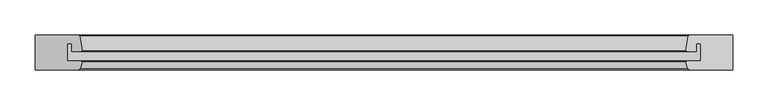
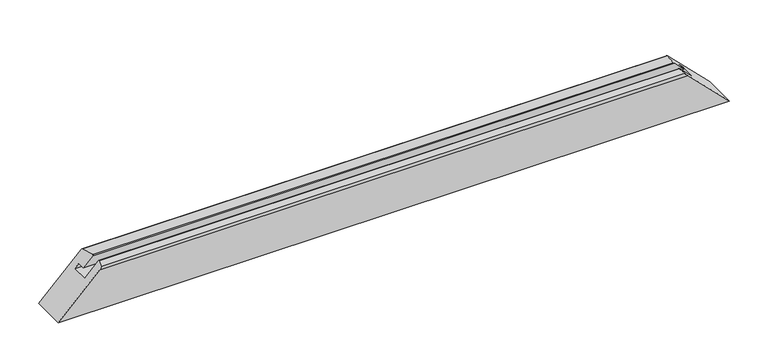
"""IFC4 building model written with IfcOpenShell, lengths in millimetres: proxy geometry, Weiku - Montante - Caixilho fixo 02.2.01.005 : Weiku - Montante - Caixilho fixo 02.2.01.005."""

from ifc_helpers import new_model, si_unit, frame, origin, place, context, project, spatial, ellipse_curve, source, transform, mapped, element, save
from ifc_brep_helpers import plane_surface, cylinder_surface, advanced_brep


def generic_models_d78eb1f8(model_context):
    return source(origin(), model_context, "Body", "AdvancedBrep", [
        advanced_brep(
        [(-430.118227, -38.5070552, 66.881773), (-430.8909676, -37.5, 66.1090324), (-451.0, -37.5, 46.0), (-451.0, -12.5, 46.0), (-445.0009154, -12.5, 51.9990846), (-445.0009154, -23.5, 51.9990846), (-430.9865015, -23.5, 66.0134985), (-429.9998537, -22.3371317, 67.0001463), (-433.5489094, -0.8371317, 63.4510906), (-434.5355572, 0.0, 62.4644428), (-497.0, 0.0, 0.0), (-497.0, -50.0, 0.0), (-435.4997332, -50.0, 61.5002668), (-432.6019557, -47.7764571, 64.3980443), (432.6019557, -47.7764571, 64.3980443), (435.4997332, -50.0, 61.5002668), (497.0, -50.0, 0.0), (497.0, 0.0, 0.0), (434.5355572, 0.0, 62.4644428), (433.5489094, -0.8371317, 63.4510906), (429.9998537, -22.3371317, 67.0001463), (430.9865015, -23.5, 66.0134985), (445.0009154, -23.5, 51.9990846), (445.0009154, -12.5, 51.9990846), (451.0, -12.5, 46.0), (451.0, -37.5, 46.0), (430.8909676, -37.5, 66.1090324), (430.118227, -38.5070552, 66.881773)],
        [
            (0, 1, ellipse_curve(frame((-430.8909676, -38.3, 66.1090324), z_axis=(-0.707106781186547, 0.0, 0.7071067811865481), x_axis=(-0.7071067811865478, 0.0, -0.707106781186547)), 1.1313708, 0.8)),
            (1, 2),
            (2, 3),
            (3, 4),
            (4, 5),
            (5, 6),
            (6, 7, ellipse_curve(frame((-430.9865015, -22.5, 66.0134985), z_axis=(-0.707106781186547, 0.0, 0.7071067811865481), x_axis=(-0.7071067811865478, 0.0, -0.707106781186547)), 1.4142136, 1.0)),
            (7, 8),
            (8, 9, ellipse_curve(frame((-434.5355572, -1.0, 62.4644428), z_axis=(-0.707106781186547, 0.0, 0.7071067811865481), x_axis=(-0.7071067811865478, 0.0, -0.707106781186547)), 1.4142136, 1.0)),
            (9, 10),
            (10, 11),
            (11, 12),
            (12, 13, ellipse_curve(frame((-435.4997332, -47.0, 61.5002668), z_axis=(-0.707106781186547, 0.0, 0.7071067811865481), x_axis=(-0.7071067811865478, 0.0, -0.707106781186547)), 4.2426407, 3.0)),
            (13, 0),
            (14, 15, ellipse_curve(frame((435.4997332, -47.0, 61.5002668), z_axis=(0.7071067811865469, 0.0, 0.7071067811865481), x_axis=(-0.7071067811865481, 0.0, 0.7071067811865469)), 4.2426407, 3.0)),
            (15, 16),
            (16, 17),
            (17, 18),
            (18, 19, ellipse_curve(frame((434.5355572, -1.0, 62.4644428), z_axis=(0.7071067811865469, 0.0, 0.7071067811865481), x_axis=(-0.7071067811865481, 0.0, 0.7071067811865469)), 1.4142136, 1.0)),
            (19, 20),
            (20, 21, ellipse_curve(frame((430.9865015, -22.5, 66.0134985), z_axis=(0.7071067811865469, 0.0, 0.7071067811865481), x_axis=(-0.7071067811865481, 0.0, 0.7071067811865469)), 1.4142136, 1.0)),
            (21, 22),
            (22, 23),
            (23, 24),
            (24, 25),
            (25, 26),
            (26, 27, ellipse_curve(frame((430.8909676, -38.3, 66.1090324), z_axis=(0.7071067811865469, 0.0, 0.7071067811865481), x_axis=(-0.7071067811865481, 0.0, 0.7071067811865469)), 1.1313708, 0.8)),
            (27, 14),
            (13, 14),
            (27, 0),
            (12, 15),
            (11, 16),
            (10, 17),
            (9, 18),
            (8, 19),
            (7, 20),
            (6, 21),
            (5, 22),
            (4, 23),
            (3, 24),
            (2, 25),
            (1, 26),
        ],
        [
            plane_surface(frame((-567.0, 15.0, -70.0), z_axis=(-0.707106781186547, 0.0, 0.7071067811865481), x_axis=(0.0, -1.0, 0.0))),
            plane_surface(frame((427.0, 15.0, 70.0), z_axis=(0.7071067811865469, 0.0, 0.7071067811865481), x_axis=(0.0, -1.0, 0.0))),
            plane_surface(frame((-497.0, -38.5070552, 66.881773), z_axis=(0.0, -0.2588190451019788, 0.9659258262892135), x_axis=(1.0, 0.0, 0.0))),
            cylinder_surface(frame((-497.0, -47.0, 61.5002668), z_axis=(-1.0, 0.0, 0.0), x_axis=(0.0, 1.0, 0.0)), 3.0),
            plane_surface(frame((-497.0, -50.0, 61.5002668), z_axis=(0.0, -1.0, 0.0), x_axis=(1.0, 0.0, 0.0))),
            plane_surface(frame((-497.0, -50.0, 0.0), z_axis=(0.0, 0.0, -1.0), x_axis=(1.0, 0.0, 0.0))),
            plane_surface(frame((-497.0, 0.0, 0.0), z_axis=(0.0, 1.0, 0.0), x_axis=(1.0, 0.0, 0.0))),
            cylinder_surface(frame((-497.0, -1.0, 62.4644428), z_axis=(-1.0, 0.0, 0.0), x_axis=(0.0, -1.0, 0.0)), 1.0),
            plane_surface(frame((-497.0, -0.8371317, 63.4510906), z_axis=(0.0, 0.16286828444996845, 0.9866478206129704), x_axis=(1.0, 0.0, 0.0))),
            cylinder_surface(frame((-497.0, -22.5, 66.0134985), z_axis=(-1.0, 0.0, 0.0), x_axis=(0.0, -1.0, 0.0)), 1.0),
            plane_surface(frame((-497.0, -23.5, 66.0134985), z_axis=(0.0, -1.0, 0.0), x_axis=(1.0, 0.0, 0.0))),
            plane_surface(frame((-497.0, -23.5, 51.9990846), z_axis=(0.0, 0.0, -1.0), x_axis=(1.0, 0.0, 0.0))),
            plane_surface(frame((-497.0, -12.5, 51.9990846), z_axis=(0.0, -1.0, 0.0), x_axis=(1.0, 0.0, 0.0))),
            plane_surface(frame((-497.0, -12.5, 46.0), z_axis=(0.0, 0.0, 1.0), x_axis=(1.0, 0.0, 0.0))),
            plane_surface(frame((-497.0, -37.5, 46.0), z_axis=(0.0, 1.0, 0.0), x_axis=(1.0, 0.0, 0.0))),
            cylinder_surface(frame((-497.0, -38.3, 66.1090324), z_axis=(-1.0, 0.0, 0.0), x_axis=(0.0, 1.0, 0.0)), 0.8),
        ],
        [
            (0, [[1, 2, 3, 4, 5, 6, 7, 8, 9, 10, 11, 12, 13, 14]]),
            (1, [[15, 16, 17, 18, 19, 20, 21, 22, 23, 24, 25, 26, 27, 28]]),
            (2, [[29, -28, 30, -14]]),
            (3, [[31, -15, -29, -13]]),
            (4, [[-16, -31, -12, 32]]),
            (5, [[-11, 33, -17, -32]]),
            (6, [[-10, 34, -18, -33]]),
            (7, [[35, -19, -34, -9]]),
            (8, [[36, -20, -35, -8]]),
            (9, [[37, -21, -36, -7]]),
            (10, [[38, -22, -37, -6]]),
            (11, [[39, -23, -38, -5]]),
            (12, [[40, -24, -39, -4]]),
            (13, [[41, -25, -40, -3]]),
            (14, [[42, -26, -41, -2]]),
            (15, [[-30, -27, -42, -1]]),
        ],
    ),
    ])


if __name__ == "__main__":
    model = new_model("IFC4")
    model_context = context("Model", 3, world=origin())
    ifc_project = project(units=[si_unit("LENGTHUNIT", "METRE", prefix="MILLI")], contexts=[model_context])
    site = spatial("IfcSite", under=ifc_project)
    building = spatial("IfcBuilding", under=site)
    placement = place(None, origin())
    generic_models_shape = generic_models_d78eb1f8(model_context)
    element("IfcBuildingElementProxy", 1, Name="Weiku - Montante - Caixilho fixo 02.2.01.005 : Weiku - Montante - Caixilho fixo 02.2.01.005", ObjectType="Weiku - Montante - Caixilho fixo 02.2.01.005 : Weiku - Montante - Caixilho fixo 02.2.01.005", at=placement, inside=building, context=model_context, shape_type="MappedRepresentation", body=[
        mapped(generic_models_shape, transform((0.0, 0.0, 0.0), x_axis=(1.0, 0.0, 0.0), y_axis=(0.0, 1.0, 0.0), z_axis=(0.0, 0.0, 1.0))),
    ])
    save(model, "model.ifc")
